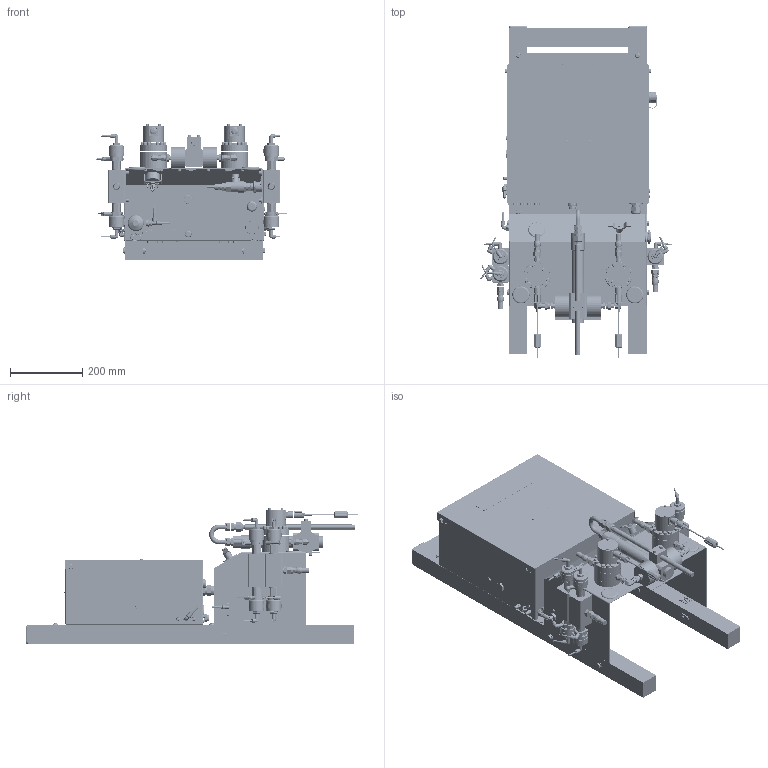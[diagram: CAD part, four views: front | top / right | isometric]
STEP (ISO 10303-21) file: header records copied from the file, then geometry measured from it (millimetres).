
FILE_DESCRIPTION((''),'2;1');
FILE_NAME('24F084-EN-T_PRT','2020-03-05T07:36:09',('qusrh3'),(''),'CREO PARAMETRIC BY PTC INC, 2019030','CREO PARAMETRIC BY PTC INC, 2019030','');
FILE_SCHEMA(('CONFIG_CONTROL_DESIGN'));
Products named in the file (1): 24F084-EN-T_PRT
Bounding box: 529.13 x 918.81 x 375.48 mm (x, y, z)
Surface area: 3345374.2 mm2 (no closed solid volume)
Topology: 0 solids, 844 shells, 6333 faces, 19853 edges, 13794 vertices
Faces by surface type: plane 2934, cylinder 1753, cone 939, bspline 296, torus 292, sphere 90, extrusion 21, revolution 8
Entity records: 248236 total; most frequent: CARTESIAN_POINT 80964, DIRECTION 34169, ORIENTED_EDGE 31748, EDGE_CURVE 19833, VERTEX_POINT 13794, AXIS2_PLACEMENT_3D 11916, VECTOR 10329, LINE 10308
